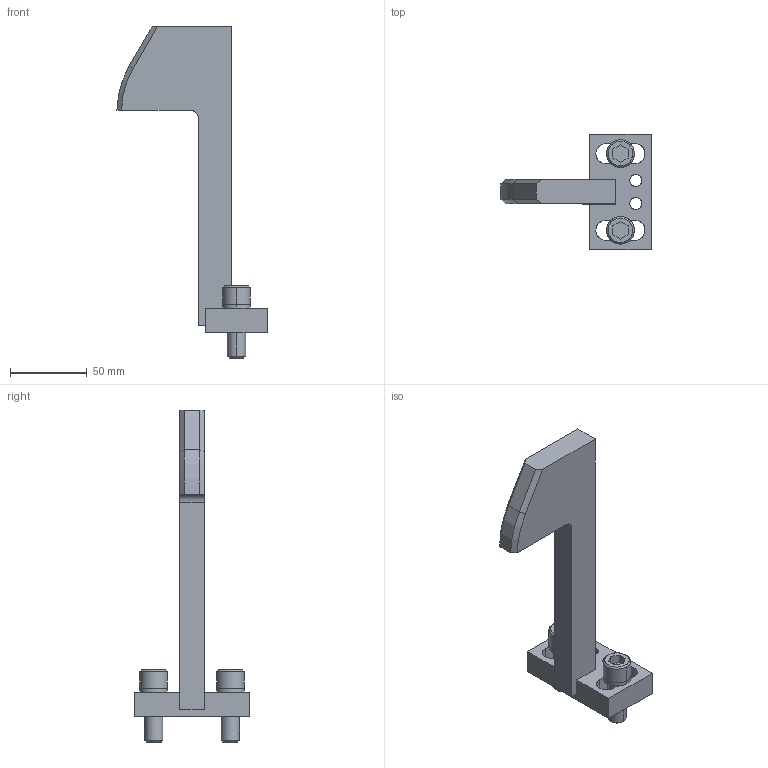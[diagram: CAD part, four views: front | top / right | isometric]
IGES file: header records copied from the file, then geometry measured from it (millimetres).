
Global section: file name: E:\UnigraphicsGraphicData\MISUMI_PRESS-PARTS\IGES\3d_ngwsa-200-40-s75-x53-y145-m12_01620_r00.igs; native system: NX V5.0; preprocessor: UGS NX IGES V5.0; author: MISUMI; date: 20110105.162125; units: millimetre
Bounding box: 97.99 x 75 x 216.5 mm (x, y, z)
Surface area: 39927.5 mm2 (no closed solid volume)
Topology: 0 solids, 0 shells, 104 faces, 670 edges, 670 vertices
Faces by surface type: bspline 104
